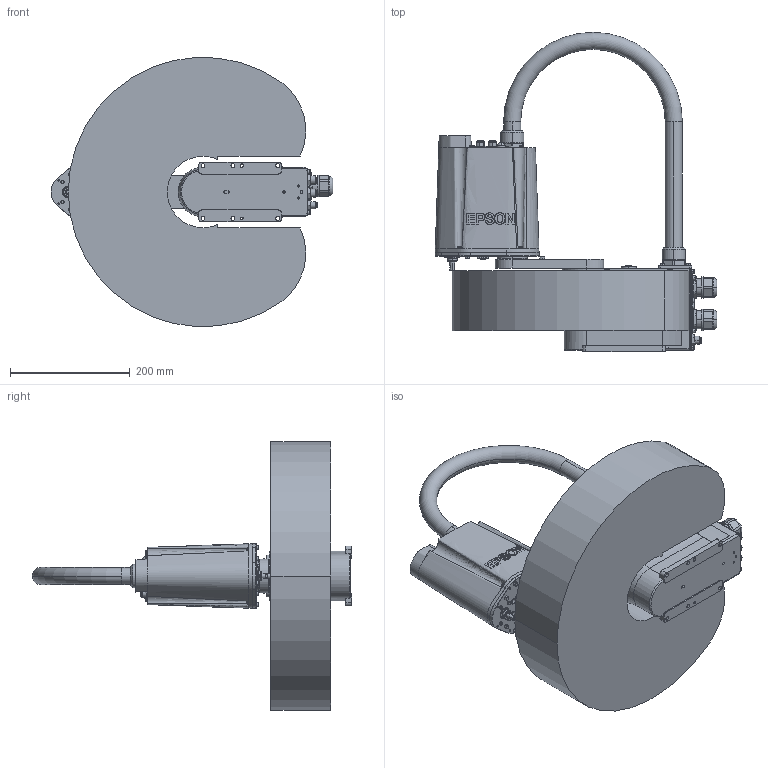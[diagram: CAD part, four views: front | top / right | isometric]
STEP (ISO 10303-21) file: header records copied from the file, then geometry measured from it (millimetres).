
FILE_DESCRIPTION (( 'STEP AP214' ), '1' );
FILE_NAME ('GX1-x221S.STEP', '2025-04-16T17:41:43', ( '' ), ( '' ), 'SwSTEP 2.0', 'SolidWorks 2020', '' );
FILE_SCHEMA (( 'AUTOMOTIVE_DESIGN' ));
Length unit declared in the file: millimetre
Products named in the file (7): GX1-C221S-Base; GX1-C221S-WS; GX1-x221S; GX1-C221S-cable; GX1-C221S-J1 Arm 1; GX1-C221S - Shaft; GX1-C221S-J1 Arm 2
Assembly tree (6 placements, depth 2):
  GX1-x221S
    GX1-C221S-Base
    GX1-C221S-J1 Arm 1
    GX1-C221S-J1 Arm 2
    GX1-C221S - Shaft
    GX1-C221S-cable
    GX1-C221S-WS
Bounding box: 470.68 x 533.25 x 449.26 mm (x, y, z)
Volume: 17685957.2 mm3; surface area: 807880.5 mm2
Topology: 6 solids, 6 shells, 1968 faces, 4719 edges, 3051 vertices
Faces by surface type: cylinder 925, plane 728, cone 258, torus 28, bspline 27, sphere 2
Entity records: 67967 total; most frequent: CARTESIAN_POINT 17040, ORIENTED_EDGE 9430, DIRECTION 9134, EDGE_CURVE 4715, AXIS2_PLACEMENT_3D 3515, VERTEX_POINT 3049, EDGE_LOOP 2282, LINE 2104
